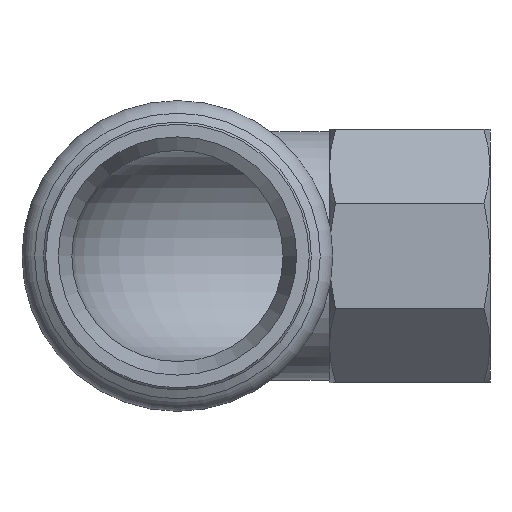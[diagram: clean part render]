
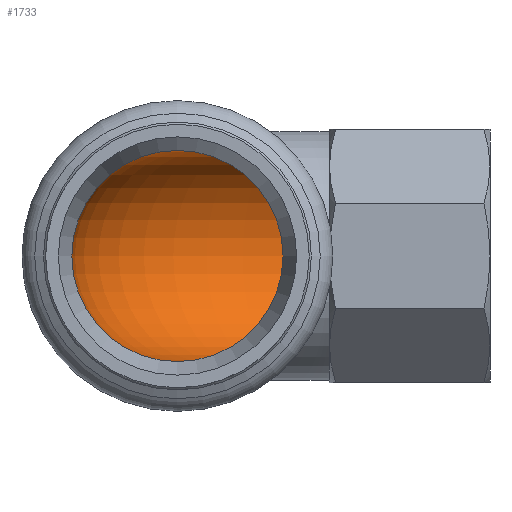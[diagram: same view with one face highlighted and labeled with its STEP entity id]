
A CAD part, left-side view. The second image highlights one B-rep face of the part: STEP entity #1733.
In plain terms, the highlighted toroidal (fillet/blend) face has major radius 19 mm and minor radius 12.5 mm.
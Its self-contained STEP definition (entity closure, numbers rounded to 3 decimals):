
#821=CARTESIAN_POINT('',(19.0,-19.0,12.5));
#822=VERTEX_POINT('',#821);
#823=CARTESIAN_POINT('',(19.0,-19.,0.0));
#824=DIRECTION('',(0.0,1.0,0.0));
#825=DIRECTION('',(1.0,0.0,0.0));
#826=AXIS2_PLACEMENT_3D('',#823,#824,#825);
#827=CIRCLE('',#826,12.5);
#828=EDGE_CURVE('',#822,#822,#827,.T.);
#1714=CARTESIAN_POINT('',(0.0,-19.0,0.0));
#1715=DIRECTION('',(0.0,0.0,-1.0));
#1716=DIRECTION('',(-1.0,0.0,0.0));
#1717=AXIS2_PLACEMENT_3D('',#1714,#1715,#1716);
#1718=TOROIDAL_SURFACE('',#1717,19.0,12.5);
#1719=ORIENTED_EDGE('',*,*,#828,.F.);
#1720=EDGE_LOOP('',(#1719));
#1721=FACE_OUTER_BOUND('',#1720,.T.);
#1722=CARTESIAN_POINT('',(0.,0.,-12.5));
#1723=VERTEX_POINT('',#1722);
#1724=CARTESIAN_POINT('',(0.0,0.0,0.0));
#1725=DIRECTION('',(1.0,0.0,0.0));
#1726=DIRECTION('',(0.0,1.0,0.0));
#1727=AXIS2_PLACEMENT_3D('',#1724,#1725,#1726);
#1728=CIRCLE('',#1727,12.5);
#1729=EDGE_CURVE('',#1723,#1723,#1728,.T.);
#1730=ORIENTED_EDGE('',*,*,#1729,.F.);
#1731=EDGE_LOOP('',(#1730));
#1732=FACE_BOUND('',#1731,.T.);
#1733=ADVANCED_FACE('',(#1721,#1732),#1718,.F.);
